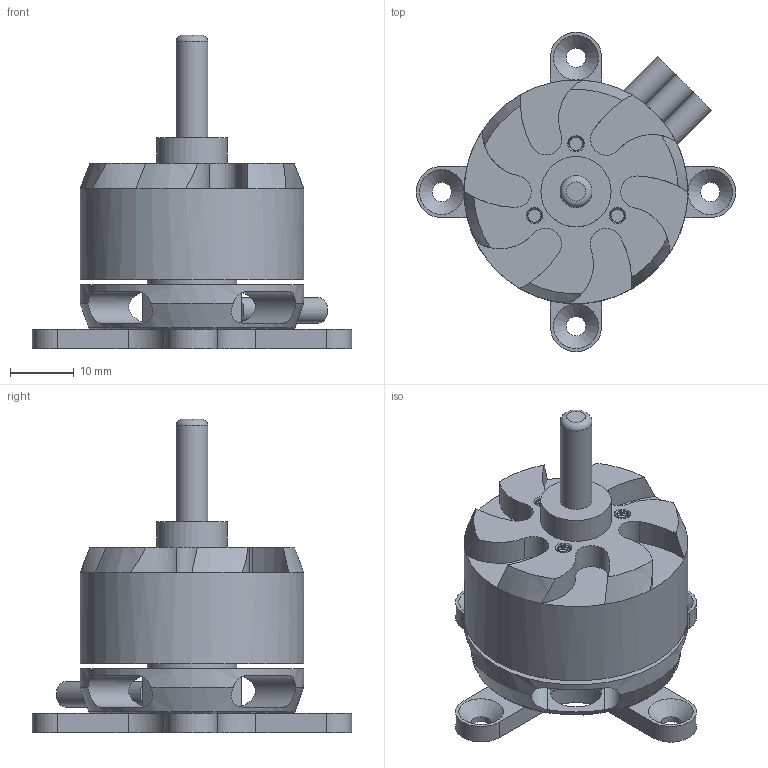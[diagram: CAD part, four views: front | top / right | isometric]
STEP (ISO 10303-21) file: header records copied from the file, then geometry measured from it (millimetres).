
FILE_DESCRIPTION(/* description */ (''),/* implementation_level */ '2;1');
FILE_NAME(/* name */ 'Waffenmotor Gro v2.step',/* time_stamp */ '2023-12-18T15:10:42+01:00',/* author */ (''),/* organization */ (''),/* preprocessor_version */ 'ST-DEVELOPER v20',/* originating_system */ 'Autodesk Translation Framework v12.14.0.127',/* authorisation */ '');
FILE_SCHEMA (('AUTOMOTIVE_DESIGN { 1 0 10303 214 3 1 1 }'));
Length unit declared in the file: millimetre
Products named in the file (1): Waffenmotor Groß
Bounding box: 50 x 50 x 49 mm (x, y, z)
Volume: 22193.9 mm3; surface area: 9784.6 mm2
Topology: 4 solids, 4 shells, 194 faces, 530 edges, 336 vertices
Faces by surface type: cylinder 115, plane 57, cone 14, bspline 6, torus 2
Full cylindrical faces by diameter (mm): 2.075 x9, 2.58 x9, 3 x4, 5 x1, 8 x8, 11 x2, 14 x1, 35 x2
Entity records: 10037 total; most frequent: CARTESIAN_POINT 5179, ORIENTED_EDGE 1060, DIRECTION 967, EDGE_CURVE 530, AXIS2_PLACEMENT_3D 402, VERTEX_POINT 336, EDGE_LOOP 218, CIRCLE 209
